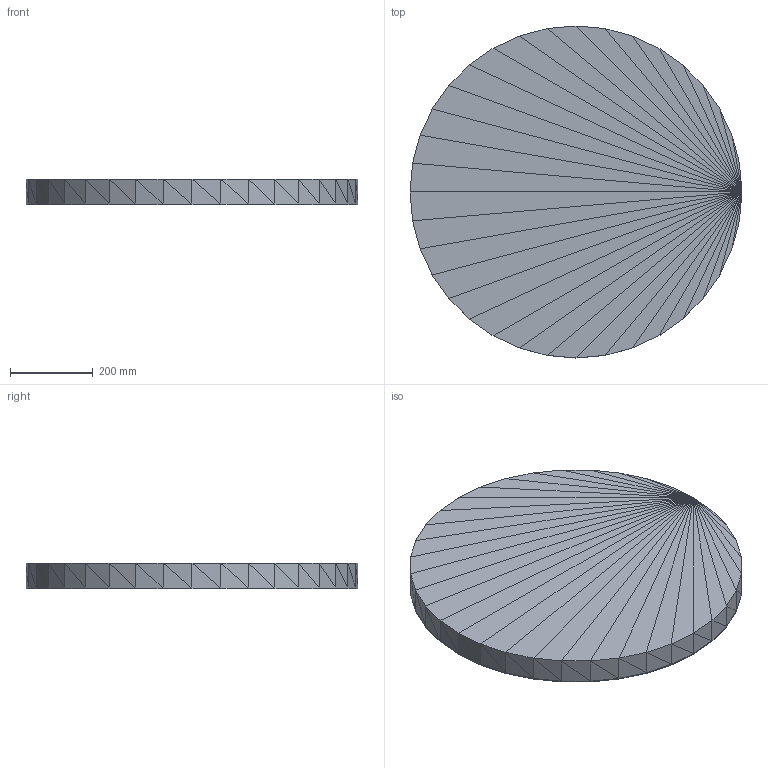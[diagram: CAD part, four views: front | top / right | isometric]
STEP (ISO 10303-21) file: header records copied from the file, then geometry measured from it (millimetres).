
FILE_DESCRIPTION(('ISINAC STEP AP214'),'2;1');
FILE_NAME('ISINAC_CIR.800_60mm_IMANTADA','2026-05-03T10:49:20',('ISINAC'),('www.isinac.com'),'ISINAC BIM Generator 1.0','','');
FILE_SCHEMA(('AUTOMOTIVE_DESIGN'));
Length unit declared in the file: millimetre
Products named in the file (1): ISINAC_CIR.800_60mm_IMANTADA
Bounding box: 800 x 800 x 62 mm (x, y, z)
Surface area: 2156052.3 mm2 (no closed solid volume)
Topology: 0 solids, 280 shells, 280 faces, 840 edges, 840 vertices
Faces by surface type: plane 280
Entity records: 3093 total; most frequent: CARTESIAN_POINT 1120, DIRECTION 560, POLY_LOOP 280, FACE_OUTER_BOUND 280, AXIS2_PLACEMENT_3D 280, PLANE 280, FACE_SURFACE 280, CLOSED_SHELL 1
